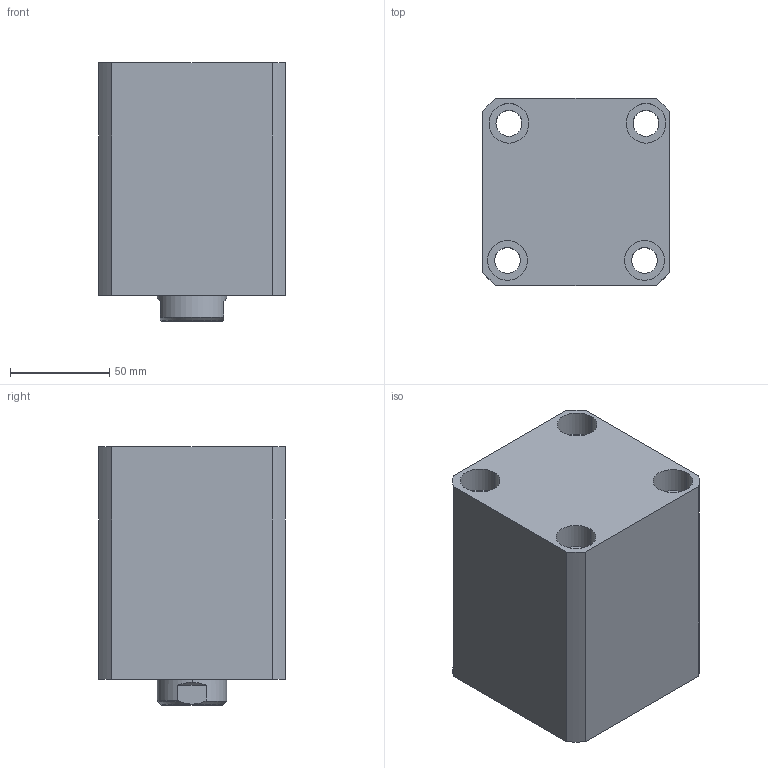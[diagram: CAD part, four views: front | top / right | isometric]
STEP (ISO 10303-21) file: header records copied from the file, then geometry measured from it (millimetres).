
FILE_DESCRIPTION (( 'STEP AP214' ), '1' );
FILE_NAME ('chtb-sdma63x50n_asm.STEP', '2018-05-16T02:31:51', ( 'Windows' ), ( 'Microsoft' ), 'SwSTEP 2.0', 'SolidWorks 2015', '' );
FILE_SCHEMA (( 'AUTOMOTIVE_DESIGN' ));
Length unit declared in the file: millimetre
Products named in the file (4): CHTB-SDMA63X50NBT; CHTB63X50NHSG; CHTB-63QG; chtb-sdma63x50n_asm
Assembly tree (3 placements, depth 2):
  chtb-sdma63x50n_asm
    CHTB-63QG
    CHTB63X50NHSG
    CHTB-SDMA63X50NBT
Bounding box: 94 x 94 x 130 mm (x, y, z)
Volume: 835493.2 mm3; surface area: 145597.7 mm2
Topology: 3 solids, 3 shells, 165 faces, 472 edges, 321 vertices
Faces by surface type: cylinder 107, plane 31, bspline 12, cone 8, torus 7
Entity records: 17727 total; most frequent: CARTESIAN_POINT 13576, ORIENTED_EDGE 932, DIRECTION 716, EDGE_CURVE 466, VERTEX_POINT 321, AXIS2_PLACEMENT_3D 288, EDGE_LOOP 197, FACE_OUTER_BOUND 165
